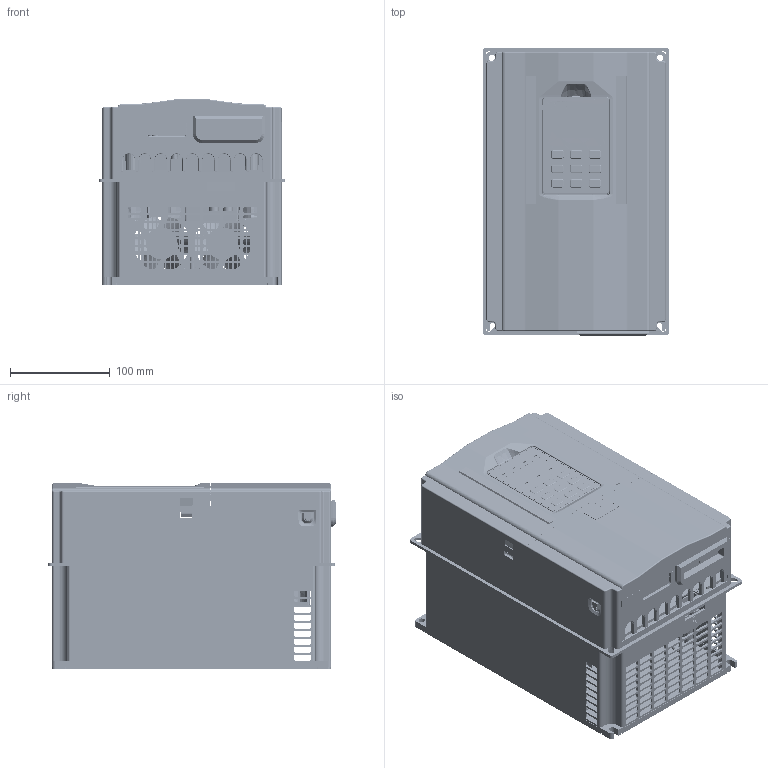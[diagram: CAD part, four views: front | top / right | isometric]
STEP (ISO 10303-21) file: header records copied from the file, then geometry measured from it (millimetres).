
FILE_DESCRIPTION((''),'2;1');
FILE_NAME('T4_ASM','2024-03-28T13:21:28',('dyliuk'),(''),'CREO PARAMETRIC BY PTC INC, 2020044','CREO PARAMETRIC BY PTC INC, 2020044','');
FILE_SCHEMA(('CONFIG_CONTROL_DESIGN','SHAPE_APPEARANCE_LAYERS_GROUPS'));
Products named in the file (44): 8022V1610_7_1_1; 8ZTD_946_133_2_1_1; 8ZTD_945_031_2_1_1; 9010201184_2_1_1; 5022V1604_ASM_22_ASM_1_ASM_1_ASM; 8300V1601_14_1_1; 8055V1603_11_1_1; 5423V1602_10_1_1; FAN-60X60X25_1_2_2_1_1; TFD610-15T-03_ASM_20_ASM_1_ASM__ASM; 8355V1609_5_1_1; 9010201186_2_1_1; 5355V1609_ASM_24_ASM_1_ASM_1_ASM; 8325V1612_14_1_1; 8392V1607_4_1_1; TFD610-15T-02_ASM_22_ASM_1_ASM__ASM; 8315V1618_12_1_1; 8315V1619_10_1_1; TFD610-15T-01_ASM_10_ASM_1_ASM__ASM; SP070016_1_1_1; SP110174_1_1_1; SP040450_1_1_1; TFD610-15-06_ASM_2_ASM_1_ASM_1_ASM; TFD610-15_ASM_52_ASM_1_ASM_1_ASM; 8315V1617_1; PCB-1_1_1_1; PCB-2-A_1_1_1; LCD-1_1_1_1; ANL01_1_23_1__4_1_1_1; MANIFOLD_SOLID_BREP_21504_1_1; MANIFOLD_SOLID_BREP_21654_1_1; DZ-01_1_3_7_1__1_1_ASM_1_ASM_1_ASM; 5599V1602_ASM_1_ASM; 8865V1605_1; BOX-BOTTOM-PLATE_1_1_1; M4X4_1_1_1; 5022V1607_ASM_1_ASM; LED-11_1_1; PA-3X6_1_1; 5353V1602_ASM_1_ASM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
Assembly tree (77 placements, depth 6):
  T4_ASM
    T4_ASM_1_ASM
      TFD610-15_ASM_52_ASM_1_ASM_1_ASM
        TFD610-15T-03_ASM_20_ASM_1_ASM__ASM
          5022V1604_ASM_22_ASM_1_ASM_1_ASM
            8022V1610_7_1_1
            8ZTD_946_133_2_1_1  x4
            8ZTD_945_031_2_1_1  x4
            9010201184_2_1_1  x2
          8300V1601_14_1_1
          8055V1603_11_1_1
          5423V1602_10_1_1
          FAN-60X60X25_1_2_2_1_1  x2
        TFD610-15T-02_ASM_22_ASM_1_ASM__ASM
          5355V1609_ASM_24_ASM_1_ASM_1_ASM
            8355V1609_5_1_1
            9010201186_2_1_1
          8325V1612_14_1_1
          8392V1607_4_1_1
        TFD610-15T-01_ASM_10_ASM_1_ASM__ASM
          8315V1618_12_1_1
          8315V1619_10_1_1
        TFD610-15-06_ASM_2_ASM_1_ASM_1_ASM
          SP070016_1_1_1  x8
          SP110174_1_1_1  x4
          SP040450_1_1_1  x6
      5353V1602_ASM_1_ASM
        8315V1617_1
        5599V1602_ASM_1_ASM
          PCB-1_1_1_1
          PCB-2-A_1_1_1
          LCD-1_1_1_1
          ANL01_1_23_1__4_1_1_1  x9
          DZ-01_1_3_7_1__1_1_ASM_1_ASM_1_ASM
            MANIFOLD_SOLID_BREP_21504_1_1
            MANIFOLD_SOLID_BREP_21654_1_1
        8865V1605_1
        5022V1607_ASM_1_ASM
          BOX-BOTTOM-PLATE_1_1_1
          M4X4_1_1_1  x2
        LED-11_1_1
        PA-3X6_1_1  x3
      8865V1601-250T-315T_1_1_1
    8ZTD-865-1230-00_1_1
Bounding box: 187 x 289 x 186.45 mm (x, y, z)
Volume: 1004556.2 mm3; surface area: 1695882.5 mm2
Topology: 60 solids, 148 shells, 10871 faces, 31608 edges, 21175 vertices
Faces by surface type: plane 6856, cylinder 3041, torus 349, cone 299, bspline 186, extrusion 108, sphere 28, revolution 4
Entity records: 394315 total; most frequent: CARTESIAN_POINT 79751, ORIENTED_EDGE 52156, DIRECTION 47699, EDGE_CURVE 26473, VECTOR 18847, LINE 18739, PRESENTATION_STYLE_ASSIGNMENT 17847, VERTEX_POINT 17785
